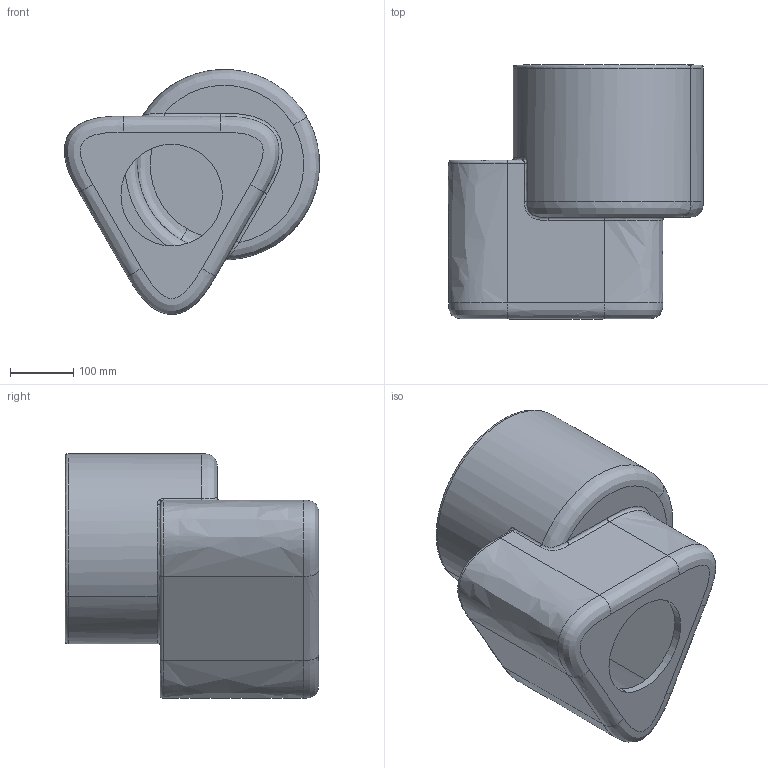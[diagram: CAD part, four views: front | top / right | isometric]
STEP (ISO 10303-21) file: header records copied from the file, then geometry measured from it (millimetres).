
FILE_DESCRIPTION (( 'STEP AP203' ), '1' );
FILE_NAME ('20230201_OFFSET_Circle_on_triangle_export.STEP', '2023-02-01T10:22:52', ( '' ), ( '' ), 'SwSTEP 2.0', 'SolidWorks 2018', '' );
FILE_SCHEMA (( 'CONFIG_CONTROL_DESIGN' ));
Length unit declared in the file: millimetre
Products named in the file (1): 20230201_OFFSET_Circle_on_triangle_export
Bounding box: 402.01 x 400 x 386.03 mm (x, y, z)
Volume: 7143059.2 mm3; surface area: 1071489.3 mm2
Topology: 1 solids, 1 shells, 75 faces, 168 edges, 97 vertices
Faces by surface type: bspline 55, plane 14, cylinder 6
Entity records: 13747 total; most frequent: CARTESIAN_POINT 12494, ORIENTED_EDGE 336, EDGE_CURVE 168, B_SPLINE_CURVE_WITH_KNOTS 152, VERTEX_POINT 97, EDGE_LOOP 77, FACE_OUTER_BOUND 75, ADVANCED_FACE 75
